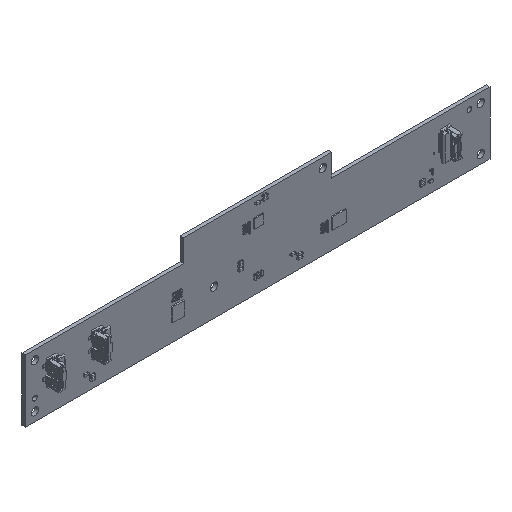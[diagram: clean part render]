
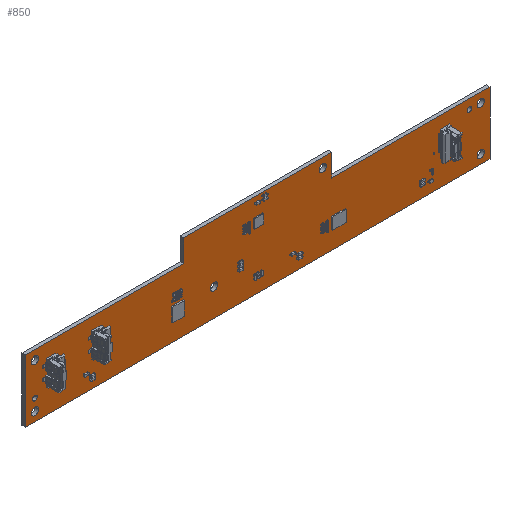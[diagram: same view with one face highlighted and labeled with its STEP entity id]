
A CAD part, isometric view. The second image highlights one B-rep face of the part: STEP entity #850.
In plain terms, the highlighted planar face has unit normal (0, -1, 0).
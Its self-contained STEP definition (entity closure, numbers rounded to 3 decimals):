
#147=DIRECTION('',(0.,0.,1.));
#148=VECTOR('',#147,27.25);
#149=CARTESIAN_POINT('',(-101.,0.,-27.25));
#150=LINE('',#149,#148);
#154=DIRECTION('',(1.,0.,0.));
#155=VECTOR('',#154,68.75);
#156=CARTESIAN_POINT('',(-101.,0.,0.));
#157=LINE('',#156,#155);
#161=DIRECTION('',(0.,0.,1.));
#162=VECTOR('',#161,9.75);
#163=CARTESIAN_POINT('',(-32.25,0.,0.));
#164=LINE('',#163,#162);
#168=DIRECTION('',(1.,0.,0.));
#169=VECTOR('',#168,64.5);
#170=CARTESIAN_POINT('',(-32.25,0.,9.75));
#171=LINE('',#170,#169);
#175=DIRECTION('',(0.,0.,-1.));
#176=VECTOR('',#175,9.75);
#177=CARTESIAN_POINT('',(32.25,0.,9.75));
#178=LINE('',#177,#176);
#182=DIRECTION('',(1.,0.,0.));
#183=VECTOR('',#182,68.75);
#184=CARTESIAN_POINT('',(32.25,0.,0.));
#185=LINE('',#184,#183);
#189=DIRECTION('',(0.,0.,-1.));
#190=VECTOR('',#189,27.25);
#191=CARTESIAN_POINT('',(101.,0.,0.));
#192=LINE('',#191,#190);
#196=DIRECTION('',(-1.,0.,0.));
#197=VECTOR('',#196,202.);
#198=CARTESIAN_POINT('',(101.,0.,-27.25));
#199=LINE('',#198,#197);
#203=CARTESIAN_POINT('',(97.,0.,-23.25));
#204=DIRECTION('',(0.,1.,0.));
#205=DIRECTION('',(1.,0.,0.));
#206=AXIS2_PLACEMENT_3D('',#203,#204,#205);
#211=CARTESIAN_POINT('',(97.,0.,-23.25));
#212=DIRECTION('',(0.,1.,0.));
#213=DIRECTION('',(-1.,0.,0.));
#214=AXIS2_PLACEMENT_3D('',#211,#212,#213);
#219=CARTESIAN_POINT('',(-97.,0.,-23.25));
#220=DIRECTION('',(0.,1.,0.));
#221=DIRECTION('',(1.,0.,0.));
#222=AXIS2_PLACEMENT_3D('',#219,#220,#221);
#227=CARTESIAN_POINT('',(-97.,0.,-23.25));
#228=DIRECTION('',(0.,1.,0.));
#229=DIRECTION('',(-1.,0.,0.));
#230=AXIS2_PLACEMENT_3D('',#227,#228,#229);
#235=CARTESIAN_POINT('',(-19.,0.,-15.25));
#236=DIRECTION('',(0.,1.,0.));
#237=DIRECTION('',(1.,0.,0.));
#238=AXIS2_PLACEMENT_3D('',#235,#236,#237);
#243=CARTESIAN_POINT('',(-19.,0.,-15.25));
#244=DIRECTION('',(0.,1.,0.));
#245=DIRECTION('',(-1.,0.,0.));
#246=AXIS2_PLACEMENT_3D('',#243,#244,#245);
#251=CARTESIAN_POINT('',(28.25,0.,5.75));
#252=DIRECTION('',(0.,1.,0.));
#253=DIRECTION('',(1.,0.,0.));
#254=AXIS2_PLACEMENT_3D('',#251,#252,#253);
#259=CARTESIAN_POINT('',(28.25,0.,5.75));
#260=DIRECTION('',(0.,1.,0.));
#261=DIRECTION('',(-1.,0.,0.));
#262=AXIS2_PLACEMENT_3D('',#259,#260,#261);
#267=CARTESIAN_POINT('',(-97.,0.,-4.));
#268=DIRECTION('',(0.,1.,0.));
#269=DIRECTION('',(1.,0.,0.));
#270=AXIS2_PLACEMENT_3D('',#267,#268,#269);
#275=CARTESIAN_POINT('',(-97.,0.,-4.));
#276=DIRECTION('',(0.,1.,0.));
#277=DIRECTION('',(-1.,0.,0.));
#278=AXIS2_PLACEMENT_3D('',#275,#276,#277);
#283=CARTESIAN_POINT('',(97.,0.,-4.));
#284=DIRECTION('',(0.,1.,0.));
#285=DIRECTION('',(1.,0.,0.));
#286=AXIS2_PLACEMENT_3D('',#283,#284,#285);
#291=CARTESIAN_POINT('',(97.,0.,-4.));
#292=DIRECTION('',(0.,1.,0.));
#293=DIRECTION('',(-1.,0.,0.));
#294=AXIS2_PLACEMENT_3D('',#291,#292,#293);
#299=CARTESIAN_POINT('',(-97.,0.,-18.25));
#300=DIRECTION('',(0.,1.,0.));
#301=DIRECTION('',(1.,0.,0.));
#302=AXIS2_PLACEMENT_3D('',#299,#300,#301);
#307=CARTESIAN_POINT('',(-97.,0.,-18.25));
#308=DIRECTION('',(0.,1.,0.));
#309=DIRECTION('',(-1.,0.,0.));
#310=AXIS2_PLACEMENT_3D('',#307,#308,#309);
#315=CARTESIAN_POINT('',(92.,0.,-4.));
#316=DIRECTION('',(0.,1.,0.));
#317=DIRECTION('',(1.,0.,0.));
#318=AXIS2_PLACEMENT_3D('',#315,#316,#317);
#323=CARTESIAN_POINT('',(92.,0.,-4.));
#324=DIRECTION('',(0.,1.,0.));
#325=DIRECTION('',(-1.,0.,0.));
#326=AXIS2_PLACEMENT_3D('',#323,#324,#325);
#683=CARTESIAN_POINT('',(-101.,0.,-27.25));
#684=CARTESIAN_POINT('',(-101.,0.,0.));
#685=VERTEX_POINT('',#683);
#686=VERTEX_POINT('',#684);
#687=CARTESIAN_POINT('',(-32.25,0.,9.75));
#688=CARTESIAN_POINT('',(32.25,0.,9.75));
#689=VERTEX_POINT('',#687);
#690=VERTEX_POINT('',#688);
#691=CARTESIAN_POINT('',(101.,0.,0.));
#692=CARTESIAN_POINT('',(101.,0.,-27.25));
#693=VERTEX_POINT('',#691);
#694=VERTEX_POINT('',#692);
#707=CARTESIAN_POINT('',(98.6,0.,-23.25));
#708=CARTESIAN_POINT('',(95.4,0.,-23.25));
#709=VERTEX_POINT('',#707);
#710=VERTEX_POINT('',#708);
#711=CARTESIAN_POINT('',(-95.4,0.,-23.25));
#712=CARTESIAN_POINT('',(-98.6,0.,-23.25));
#713=VERTEX_POINT('',#711);
#714=VERTEX_POINT('',#712);
#723=CARTESIAN_POINT('',(-32.25,0.,0.));
#724=VERTEX_POINT('',#723);
#725=CARTESIAN_POINT('',(32.25,0.,0.));
#726=VERTEX_POINT('',#725);
#731=CARTESIAN_POINT('',(-17.4,0.,-15.25));
#732=CARTESIAN_POINT('',(-20.6,0.,-15.25));
#733=VERTEX_POINT('',#731);
#734=VERTEX_POINT('',#732);
#735=CARTESIAN_POINT('',(29.85,0.,5.75));
#736=CARTESIAN_POINT('',(26.65,0.,5.75));
#737=VERTEX_POINT('',#735);
#738=VERTEX_POINT('',#736);
#747=CARTESIAN_POINT('',(-95.4,0.,-4.));
#748=CARTESIAN_POINT('',(-98.6,0.,-4.));
#749=VERTEX_POINT('',#747);
#750=VERTEX_POINT('',#748);
#751=CARTESIAN_POINT('',(98.6,0.,-4.));
#752=CARTESIAN_POINT('',(95.4,0.,-4.));
#753=VERTEX_POINT('',#751);
#754=VERTEX_POINT('',#752);
#755=CARTESIAN_POINT('',(-96.,0.,-18.25));
#756=CARTESIAN_POINT('',(-98.,0.,-18.25));
#757=VERTEX_POINT('',#755);
#758=VERTEX_POINT('',#756);
#759=CARTESIAN_POINT('',(93.,0.,-4.));
#760=CARTESIAN_POINT('',(91.,0.,-4.));
#761=VERTEX_POINT('',#759);
#762=VERTEX_POINT('',#760);
#779=CARTESIAN_POINT('',(0.,0.,0.));
#780=DIRECTION('',(0.,1.,0.));
#781=DIRECTION('',(1.,0.,0.));
#782=AXIS2_PLACEMENT_3D('',#779,#780,#781);
#783=PLANE('',#782);
#785=ORIENTED_EDGE('',*,*,#784,.T.);
#787=ORIENTED_EDGE('',*,*,#786,.T.);
#789=ORIENTED_EDGE('',*,*,#788,.T.);
#791=ORIENTED_EDGE('',*,*,#790,.T.);
#793=ORIENTED_EDGE('',*,*,#792,.T.);
#795=ORIENTED_EDGE('',*,*,#794,.T.);
#797=ORIENTED_EDGE('',*,*,#796,.T.);
#799=ORIENTED_EDGE('',*,*,#798,.T.);
#800=EDGE_LOOP('',(#785,#787,#789,#791,#793,#795,#797,#799));
#801=FACE_OUTER_BOUND('',#800,.F.);
#803=ORIENTED_EDGE('',*,*,#802,.F.);
#805=ORIENTED_EDGE('',*,*,#804,.F.);
#806=EDGE_LOOP('',(#803,#805));
#807=FACE_BOUND('',#806,.F.);
#809=ORIENTED_EDGE('',*,*,#808,.F.);
#811=ORIENTED_EDGE('',*,*,#810,.F.);
#812=EDGE_LOOP('',(#809,#811));
#813=FACE_BOUND('',#812,.F.);
#815=ORIENTED_EDGE('',*,*,#814,.F.);
#817=ORIENTED_EDGE('',*,*,#816,.F.);
#818=EDGE_LOOP('',(#815,#817));
#819=FACE_BOUND('',#818,.F.);
#821=ORIENTED_EDGE('',*,*,#820,.F.);
#823=ORIENTED_EDGE('',*,*,#822,.F.);
#824=EDGE_LOOP('',(#821,#823));
#825=FACE_BOUND('',#824,.F.);
#827=ORIENTED_EDGE('',*,*,#826,.F.);
#829=ORIENTED_EDGE('',*,*,#828,.F.);
#830=EDGE_LOOP('',(#827,#829));
#831=FACE_BOUND('',#830,.F.);
#833=ORIENTED_EDGE('',*,*,#832,.F.);
#835=ORIENTED_EDGE('',*,*,#834,.F.);
#836=EDGE_LOOP('',(#833,#835));
#837=FACE_BOUND('',#836,.F.);
#839=ORIENTED_EDGE('',*,*,#838,.F.);
#841=ORIENTED_EDGE('',*,*,#840,.F.);
#842=EDGE_LOOP('',(#839,#841));
#843=FACE_BOUND('',#842,.F.);
#845=ORIENTED_EDGE('',*,*,#844,.F.);
#847=ORIENTED_EDGE('',*,*,#846,.F.);
#848=EDGE_LOOP('',(#845,#847));
#849=FACE_BOUND('',#848,.F.);
#207=CIRCLE('',#206,1.6);
#215=CIRCLE('',#214,1.6);
#223=CIRCLE('',#222,1.6);
#231=CIRCLE('',#230,1.6);
#239=CIRCLE('',#238,1.6);
#247=CIRCLE('',#246,1.6);
#255=CIRCLE('',#254,1.6);
#263=CIRCLE('',#262,1.6);
#271=CIRCLE('',#270,1.6);
#279=CIRCLE('',#278,1.6);
#287=CIRCLE('',#286,1.6);
#295=CIRCLE('',#294,1.6);
#303=CIRCLE('',#302,1.);
#311=CIRCLE('',#310,1.);
#319=CIRCLE('',#318,1.);
#327=CIRCLE('',#326,1.);
#784=EDGE_CURVE('',#685,#686,#150,.T.);
#786=EDGE_CURVE('',#686,#724,#157,.T.);
#788=EDGE_CURVE('',#724,#689,#164,.T.);
#790=EDGE_CURVE('',#689,#690,#171,.T.);
#792=EDGE_CURVE('',#690,#726,#178,.T.);
#794=EDGE_CURVE('',#726,#693,#185,.T.);
#796=EDGE_CURVE('',#693,#694,#192,.T.);
#798=EDGE_CURVE('',#694,#685,#199,.T.);
#802=EDGE_CURVE('',#709,#710,#207,.T.);
#804=EDGE_CURVE('',#710,#709,#215,.T.);
#808=EDGE_CURVE('',#713,#714,#223,.T.);
#810=EDGE_CURVE('',#714,#713,#231,.T.);
#814=EDGE_CURVE('',#733,#734,#239,.T.);
#816=EDGE_CURVE('',#734,#733,#247,.T.);
#820=EDGE_CURVE('',#737,#738,#255,.T.);
#822=EDGE_CURVE('',#738,#737,#263,.T.);
#826=EDGE_CURVE('',#749,#750,#271,.T.);
#828=EDGE_CURVE('',#750,#749,#279,.T.);
#832=EDGE_CURVE('',#753,#754,#287,.T.);
#834=EDGE_CURVE('',#754,#753,#295,.T.);
#838=EDGE_CURVE('',#757,#758,#303,.T.);
#840=EDGE_CURVE('',#758,#757,#311,.T.);
#844=EDGE_CURVE('',#761,#762,#319,.T.);
#846=EDGE_CURVE('',#762,#761,#327,.T.);
#850=ADVANCED_FACE('',(#801,#807,#813,#819,#825,#831,#837,#843,#849),#783,.F.);
